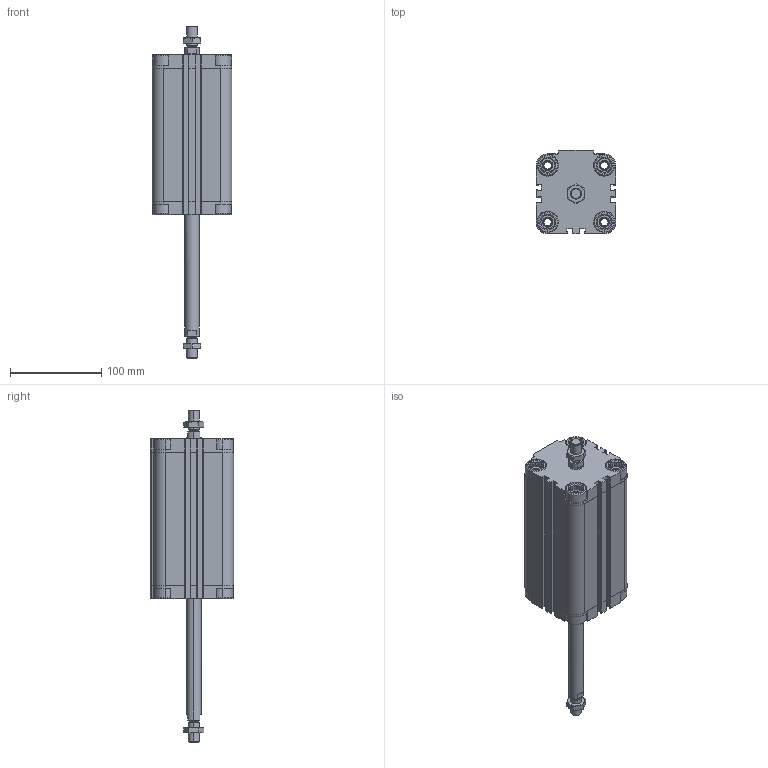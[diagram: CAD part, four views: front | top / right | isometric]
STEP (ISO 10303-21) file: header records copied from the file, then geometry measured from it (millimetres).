
FILE_DESCRIPTION (( 'STEP AP203' ), '1' );
FILE_NAME ('CDVU63-125M-P.STEP', '2020-07-21T15:22:38', ( '' ), ( '' ), 'SwSTEP 2.0', 'SolidWorks 2019', '' );
FILE_SCHEMA (( 'CONFIG_CONTROL_DESIGN' ));
Length unit declared in the file: millimetre
Products named in the file (1): CDVU63-125M-P
Bounding box: 87 x 91 x 363 mm (x, y, z)
Volume: 841740.9 mm3; surface area: 186541 mm2
Topology: 4 solids, 4 shells, 658 faces, 1744 edges, 1138 vertices
Faces by surface type: plane 386, cylinder 192, cone 80
Entity records: 21255 total; most frequent: CARTESIAN_POINT 4809, ORIENTED_EDGE 3480, DIRECTION 3322, EDGE_CURVE 1740, AXIS2_PLACEMENT_3D 1139, VERTEX_POINT 1138, LINE 1044, VECTOR 1044
